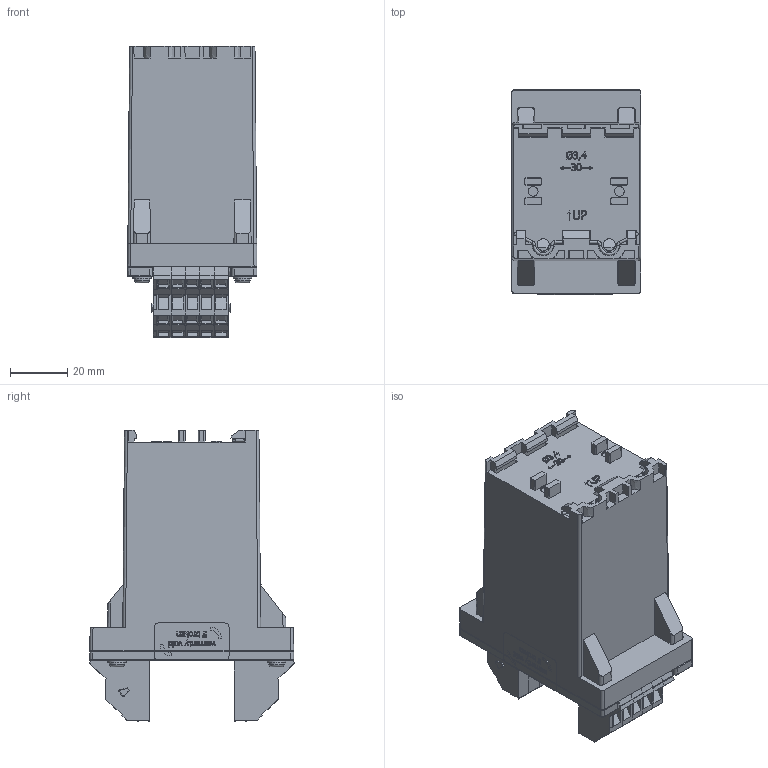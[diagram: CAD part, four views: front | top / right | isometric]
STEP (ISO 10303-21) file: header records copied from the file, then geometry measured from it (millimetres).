
FILE_DESCRIPTION((''),'2;1');
FILE_NAME('I:\TI\Inventor\Relais\D4 module\Model voor verkoop\D4 module verkoop.stp','2012-01-26T11:21:59',('a.vos'),(''),'Autodesk Inventor 2012','Autodesk Inventor 2012','');
FILE_SCHEMA(('CONFIG_CONTROL_DESIGN'));
Length unit declared in the file: millimetre
Products named in the file (1): D4 module verkoop
Bounding box: 45.18 x 71.4 x 101.5 mm (x, y, z)
Volume: 189864.3 mm3; surface area: 29922.9 mm2
Topology: 2 solids, 38 shells, 1826 faces, 4749 edges, 3062 vertices
Faces by surface type: plane 1362, cylinder 208, bspline 201, cone 36, torus 18, sphere 1
Full cylindrical faces by diameter (mm): 1 x3, 2 x1, 2.5 x1, 3 x4, 3.4 x2, 5.3 x4, 6.5 x4
Entity records: 57237 total; most frequent: CARTESIAN_POINT 12786, ORIENTED_EDGE 9442, DIRECTION 8047, EDGE_CURVE 4721, VECTOR 3819, LINE 3819, VERTEX_POINT 3058, AXIS2_PLACEMENT_3D 2114
